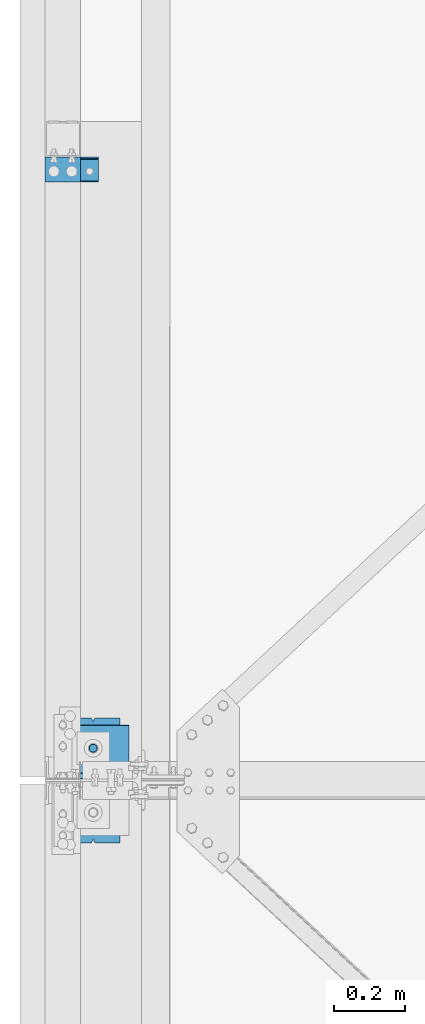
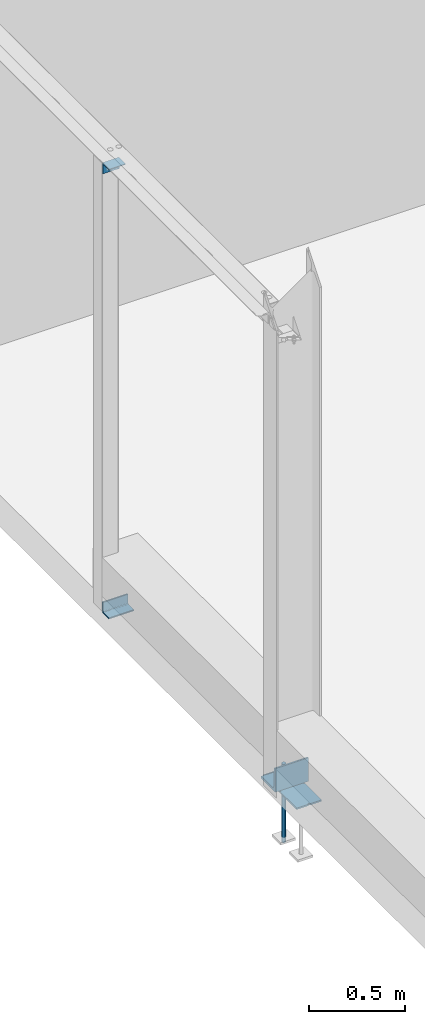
# One storey, part 77 of 362: 6 beams, 4 elements without a shape of their own.
"""IFC2X3 building model written with IfcOpenShell, lengths in millimetres."""

from ifc_helpers import new_model, si_unit, frame, origin_with_axes, origin_2d_with_axis, place, context, subcontext, project, spatial, polyline, rectangle, circle, l_section, outline, extrude, boolean, material, type_object, element, aggregate, save


model = new_model("IFC2X3")

# Units and contexts
model_context = context("Model", 3, precision=1e-05, world=origin_with_axes())
body_context = subcontext(model_context, "Body", "Model", "MODEL_VIEW")
ifc_project = project(units=[si_unit("LENGTHUNIT", "METRE", prefix="MILLI"), si_unit("AREAUNIT", "SQUARE_METRE"), si_unit("VOLUMEUNIT", "CUBIC_METRE"), si_unit("MASSUNIT", "GRAM", prefix="KILO"), si_unit("TIMEUNIT", "SECOND"), si_unit("PLANEANGLEUNIT", "RADIAN"), si_unit("SOLIDANGLEUNIT", "STERADIAN"), si_unit("THERMODYNAMICTEMPERATUREUNIT", "DEGREE_CELSIUS"), si_unit("LUMINOUSINTENSITYUNIT", "LUMEN")], contexts=[model_context])

# Site, building, storey
site_placement = place(None, origin_with_axes())
site = spatial("IfcSite", under=ifc_project, at=site_placement, Name="Undefined", CompositionType="ELEMENT")
building_placement = place(site_placement, origin_with_axes())
building = spatial("IfcBuilding", under=site, at=building_placement, Name="Undefined", CompositionType="ELEMENT")
storey_placement = place(building_placement, origin_with_axes())
storey = spatial("IfcBuildingStorey", under=building, at=storey_placement, Name="Undefined", CompositionType="ELEMENT", Elevation=0.0)

# Assembly, beam
assembly_1_placement = place(storey_placement, origin_with_axes())
assembly_1 = element("IfcElementAssembly", 1, at=assembly_1_placement, inside=storey, AssemblyPlace="NOTDEFINED", PredefinedType="NOTDEFINED")
ifc_material = material(Name="Undefined/S235-E24")
beam_type_1 = type_object("IfcBeamType", Name="L70*7", PredefinedType="NOTDEFINED")
beam_1_placement = place(assembly_1_placement, frame((-30.0000113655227, 13110.0066112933, -65.0000006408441), z_axis=(0.0, -1.0, 0.0), x_axis=(-1.0, 0.0, 0.0)))
beam_1 = element("IfcBeam", 2, at=beam_1_placement, type_object=beam_type_1, material=ifc_material, Name="ATTACHE", ObjectType="L70*7", context=body_context, shape_type="SweptSolid", body=[
    extrude(l_section(Depth=70.0, Width=70.0, Thickness=7.0, FilletRadius=9.0, EdgeRadius=4.5, at=origin_2d_with_axis()), frame((150.0, 0.0, 0.0), z_axis=(-1.0, 0.0, 0.0), x_axis=(0.0, -1.0, 0.0)), (0.0, 0.0, 1.0), 150.0),
])
aggregate(assembly_1, [beam_1])

assembly_2_placement = place(storey_placement, origin_with_axes())
assembly_2 = element("IfcElementAssembly", 3, at=assembly_2_placement, inside=storey, AssemblyPlace="NOTDEFINED", PredefinedType="NOTDEFINED")
beam_2_placement = place(assembly_2_placement, frame((-179.999995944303, 13110.0066102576, 2725.00000064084), z_axis=(0.0, -1.0, 0.0), x_axis=(1.0, 0.0, 0.0)))
beam_2 = element("IfcBeam", 4, at=beam_2_placement, type_object=beam_type_1, material=ifc_material, Name="ATTACHE", ObjectType="L70*7", context=body_context, shape_type="SweptSolid", body=[
    extrude(l_section(Depth=70.0, Width=70.0, Thickness=7.0, FilletRadius=9.0, EdgeRadius=4.5, at=origin_2d_with_axis()), frame((99.9999999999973, -1.63709046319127e-11, 7.73070496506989e-12), z_axis=(-1.0, 0.0, 0.0), x_axis=(0.0, -1.0, 0.0)), (0.0, 0.0, 1.0), 100.0),
])
aggregate(assembly_2, [beam_2])

# Assembly, beams
assembly_3_placement = place(storey_placement, origin_with_axes())
assembly_3 = element("IfcElementAssembly", 5, at=assembly_3_placement, inside=storey, Name="PRESCELLEMENT PS24", AssemblyPlace="NOTDEFINED", PredefinedType="NOTDEFINED")
beam_type_2 = type_object("IfcBeamType", Name="D24", PredefinedType="NOTDEFINED")
beam_3_placement = place(assembly_3_placement, frame((-45.0, 11489.9971504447, -100.0), z_axis=(-1.0, 0.0, 0.0), x_axis=(0.0, 0.0, -1.0)))
beam_3 = element("IfcBeam", 6, at=beam_3_placement, type_object=beam_type_2, material=ifc_material, Name="TIGE D'ANCRAGE", ObjectType="D24", context=body_context, shape_type="SweptSolid", body=[
    extrude(circle(Radius=12.0, at=origin_2d_with_axis()), frame((150.0, 0.0, 0.0), z_axis=(-1.0, 0.0, 0.0), x_axis=(0.0, -1.0, 0.0)), (0.0, 0.0, 1.0), 150.0),
])
beam_type_3 = type_object("IfcBeamType", Name="D22", PredefinedType="NOTDEFINED")
beam_4_placement = place(assembly_3_placement, frame((-45.0, 11489.9971504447, -250.0), z_axis=(-1.0, 0.0, 0.0), x_axis=(0.0, 0.0, -1.0)))
beam_4 = element("IfcBeam", 7, at=beam_4_placement, type_object=beam_type_3, material=ifc_material, Name="TIGE D'ANCRAGE", ObjectType="D22", context=body_context, shape_type="SweptSolid", body=[
    extrude(circle(Radius=11.0, at=origin_2d_with_axis()), frame((350.0, 0.0, 0.0), z_axis=(-1.0, 0.0, 0.0), x_axis=(0.0, -1.0, 0.0)), (0.0, 0.0, 1.0), 350.0),
])
beam_type_4 = type_object("IfcBeamType", Name="PL10*150", PredefinedType="NOTDEFINED")
beam_5_placement = place(assembly_3_placement, frame((-45.0, 11575.0, -205.0), z_axis=(1.0, 0.0, 0.0), x_axis=(0.0, -1.0, 0.0)))
beam_5 = element("IfcBeam", 8, at=beam_5_placement, type_object=beam_type_4, material=ifc_material, Name="PRESCELLEMENT PS24", ObjectType="PL10*150", context=body_context, shape_type="CSG", body=[
    boolean("DIFFERENCE", boolean("DIFFERENCE", boolean("DIFFERENCE", boolean("DIFFERENCE", extrude(rectangle(XDim=10.0, YDim=150.0, at=origin_2d_with_axis()), frame((350.0, 0.0, 0.0), z_axis=(-1.0, 0.0, 0.0), x_axis=(0.0, -1.0, 0.0)), (0.0, 0.0, 1.0), 350.0), extrude(outline(polyline([(0.0, 0.0), (11.1803398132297, 1.2732925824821e-11), (4.47213602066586, 8.94427204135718), (0.0, 0.0)])), frame((0.0, 7.5, -5.0), z_axis=(0.0, -1.0, 0.0), x_axis=(0.894427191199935, 0.0, 0.44721359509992)), (0.0, 0.0, 1.0), 15.0)), extrude(outline(polyline([(0.0, 0.0), (11.1803398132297, 1.2732925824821e-11), (4.47213602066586, 8.94427204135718), (0.0, 0.0)])), frame((180.0, 7.5, -75.0), z_axis=(0.0, -1.0, 0.0), x_axis=(-0.447213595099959, 0.0, 0.894427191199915)), (0.0, 0.0, 1.0), 15.0)), extrude(outline(polyline([(0.0, 0.0), (11.1803398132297, 1.2732925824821e-11), (6.70820379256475, 8.94427204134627), (0.0, 0.0)])), frame((340.0, 7.5, 0.0), z_axis=(0.0, -1.0, 0.0), x_axis=(0.894427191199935, 0.0, -0.44721359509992)), (0.0, 0.0, 1.0), 15.0)), extrude(outline(polyline([(0.0, 0.0), (11.1803398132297, 1.2732925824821e-11), (4.47213602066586, 8.94427204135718), (0.0, 0.0)])), frame((170.0, 7.5, 75.0), z_axis=(0.0, -1.0, 0.0), x_axis=(0.447213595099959, 0.0, -0.894427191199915)), (0.0, 0.0, 1.0), 15.0)),
])
aggregate(assembly_3, [beam_3, beam_4, beam_5])

# Assembly, beam
assembly_4_placement = place(storey_placement, origin_with_axes())
assembly_4 = element("IfcElementAssembly", 9, at=assembly_4_placement, inside=storey, AssemblyPlace="NOTDEFINED", PredefinedType="NOTDEFINED")
beam_type_5 = type_object("IfcBeamType", Name="L150*15", PredefinedType="NOTDEFINED")
beam_6_placement = place(assembly_4_placement, frame((55.0, 11480.0, -125.0), z_axis=(0.0, 0.0, 1.0), x_axis=(-1.0, 0.0, 0.0)))
beam_6 = element("IfcBeam", 10, at=beam_6_placement, type_object=beam_type_5, material=ifc_material, Name="ATTACHE", ObjectType="L150*15", context=body_context, shape_type="SweptSolid", body=[
    extrude(l_section(Depth=150.0, Width=150.0, Thickness=15.0, FilletRadius=16.0, EdgeRadius=8.0, at=origin_2d_with_axis()), frame((200.0, 0.0, 0.0), z_axis=(-1.0, 0.0, 0.0), x_axis=(0.0, -1.0, 0.0)), (0.0, 0.0, 1.0), 200.0),
])
aggregate(assembly_4, [beam_6])

save(model, "model.ifc")
